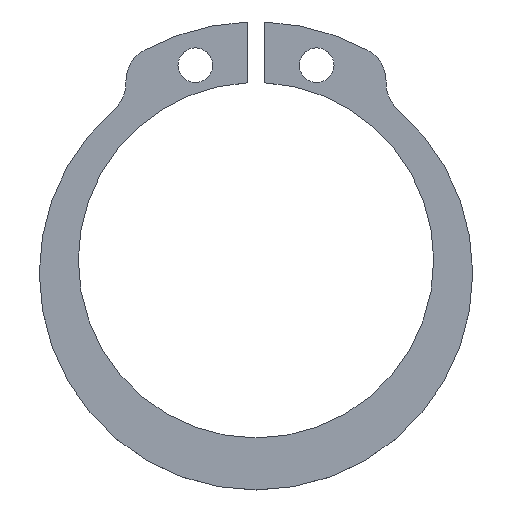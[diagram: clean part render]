
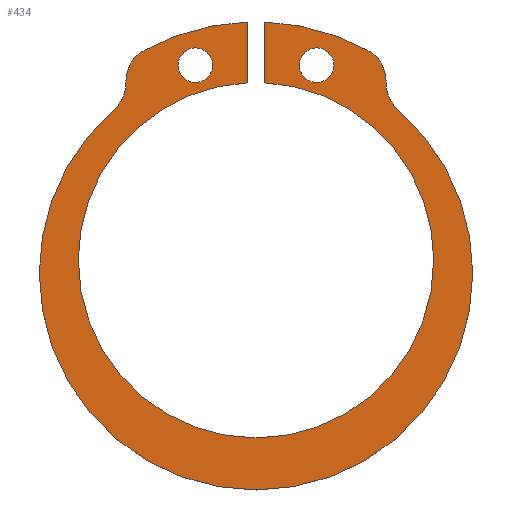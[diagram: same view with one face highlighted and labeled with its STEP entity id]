
A CAD part, top view. The second image highlights one B-rep face of the part: STEP entity #434.
In plain terms, the highlighted planar face has unit normal (0, 0, 1).
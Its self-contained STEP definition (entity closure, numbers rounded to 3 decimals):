
#70=CARTESIAN_POINT('Vertex',(-6.457,11.856,0.6)) ;
#73=CARTESIAN_POINT('Axis2P3D Location',(0.,0.,0.6)) ;
#77=CARTESIAN_POINT('Vertex',(-0.5,13.491,0.6)) ;
#264=CARTESIAN_POINT('Vertex',(-7.5,10.1,0.6)) ;
#267=CARTESIAN_POINT('Axis2P3D Location',(-5.5,10.1,0.6)) ;
#279=CARTESIAN_POINT('Axis2P3D Location',(-9.5,9.954,0.6)) ;
#284=CARTESIAN_POINT('Axis2P3D Location',(-9.5,9.954,0.6)) ;
#288=CARTESIAN_POINT('Vertex',(-8.19,8.443,0.6)) ;
#290=CARTESIAN_POINT('Vertex',(-7.5,9.954,0.6)) ;
#293=CARTESIAN_POINT('Axis2P3D Location',(0.,-1.,0.6)) ;
#297=CARTESIAN_POINT('Vertex',(-12.5,-1.,0.6)) ;
#300=CARTESIAN_POINT('Axis2P3D Location',(0.,-1.,0.6)) ;
#304=CARTESIAN_POINT('Vertex',(12.5,-1.,0.6)) ;
#307=CARTESIAN_POINT('Axis2P3D Location',(0.,-1.,0.6)) ;
#311=CARTESIAN_POINT('Vertex',(8.19,8.443,0.6)) ;
#314=CARTESIAN_POINT('Axis2P3D Location',(9.5,9.954,0.6)) ;
#318=CARTESIAN_POINT('Vertex',(7.5,9.954,0.6)) ;
#321=CARTESIAN_POINT('Line Origine',(7.5,10.027,0.6)) ;
#325=CARTESIAN_POINT('Vertex',(7.5,10.1,0.6)) ;
#328=CARTESIAN_POINT('Axis2P3D Location',(5.5,10.1,0.6)) ;
#332=CARTESIAN_POINT('Vertex',(6.457,11.856,0.6)) ;
#335=CARTESIAN_POINT('Axis2P3D Location',(0.,0.,0.6)) ;
#339=CARTESIAN_POINT('Vertex',(0.5,13.491,0.6)) ;
#342=CARTESIAN_POINT('Line Origine',(0.5,11.739,0.6)) ;
#346=CARTESIAN_POINT('Vertex',(0.5,9.988,0.6)) ;
#349=CARTESIAN_POINT('Axis2P3D Location',(0.,-0.25,0.6)) ;
#353=CARTESIAN_POINT('Vertex',(10.25,-0.25,0.6)) ;
#356=CARTESIAN_POINT('Axis2P3D Location',(0.,-0.25,0.6)) ;
#360=CARTESIAN_POINT('Vertex',(-10.25,-0.25,0.6)) ;
#363=CARTESIAN_POINT('Axis2P3D Location',(0.,-0.25,0.6)) ;
#367=CARTESIAN_POINT('Vertex',(-0.5,9.988,0.6)) ;
#370=CARTESIAN_POINT('Line Origine',(-0.5,11.739,0.6)) ;
#375=CARTESIAN_POINT('Line Origine',(-7.5,10.027,0.6)) ;
#398=CARTESIAN_POINT('Axis2P3D Location',(3.5,11.,0.6)) ;
#402=CARTESIAN_POINT('Vertex',(2.5,11.,0.6)) ;
#404=CARTESIAN_POINT('Vertex',(4.5,11.,0.6)) ;
#407=CARTESIAN_POINT('Axis2P3D Location',(3.5,11.,0.6)) ;
#416=CARTESIAN_POINT('Axis2P3D Location',(-3.5,11.,0.6)) ;
#420=CARTESIAN_POINT('Vertex',(-4.5,11.,0.6)) ;
#422=CARTESIAN_POINT('Vertex',(-2.5,11.,0.6)) ;
#425=CARTESIAN_POINT('Axis2P3D Location',(-3.5,11.,0.6)) ;
#74=DIRECTION('Axis2P3D Direction',(0.,0.,1.)) ;
#268=DIRECTION('Axis2P3D Direction',(0.,0.,1.)) ;
#280=DIRECTION('Axis2P3D Direction',(0.,0.,1.)) ;
#281=DIRECTION('Axis2P3D XDirection',(1.,0.,-0.)) ;
#285=DIRECTION('Axis2P3D Direction',(0.,0.,1.)) ;
#294=DIRECTION('Axis2P3D Direction',(0.,0.,1.)) ;
#301=DIRECTION('Axis2P3D Direction',(0.,0.,1.)) ;
#308=DIRECTION('Axis2P3D Direction',(0.,0.,1.)) ;
#315=DIRECTION('Axis2P3D Direction',(0.,0.,1.)) ;
#322=DIRECTION('Vector Direction',(0.,1.,0.)) ;
#329=DIRECTION('Axis2P3D Direction',(0.,0.,1.)) ;
#336=DIRECTION('Axis2P3D Direction',(0.,0.,1.)) ;
#343=DIRECTION('Vector Direction',(0.,-1.,0.)) ;
#350=DIRECTION('Axis2P3D Direction',(0.,0.,1.)) ;
#357=DIRECTION('Axis2P3D Direction',(0.,0.,1.)) ;
#364=DIRECTION('Axis2P3D Direction',(0.,0.,1.)) ;
#371=DIRECTION('Vector Direction',(0.,1.,0.)) ;
#376=DIRECTION('Vector Direction',(0.,-1.,0.)) ;
#399=DIRECTION('Axis2P3D Direction',(0.,0.,1.)) ;
#408=DIRECTION('Axis2P3D Direction',(0.,0.,1.)) ;
#417=DIRECTION('Axis2P3D Direction',(0.,0.,1.)) ;
#426=DIRECTION('Axis2P3D Direction',(0.,0.,1.)) ;
#75=AXIS2_PLACEMENT_3D('Circle Axis2P3D',#73,#74,$) ;
#269=AXIS2_PLACEMENT_3D('Circle Axis2P3D',#267,#268,$) ;
#282=AXIS2_PLACEMENT_3D('Plane Axis2P3D',#279,#280,#281) ;
#286=AXIS2_PLACEMENT_3D('Circle Axis2P3D',#284,#285,$) ;
#295=AXIS2_PLACEMENT_3D('Circle Axis2P3D',#293,#294,$) ;
#302=AXIS2_PLACEMENT_3D('Circle Axis2P3D',#300,#301,$) ;
#309=AXIS2_PLACEMENT_3D('Circle Axis2P3D',#307,#308,$) ;
#316=AXIS2_PLACEMENT_3D('Circle Axis2P3D',#314,#315,$) ;
#330=AXIS2_PLACEMENT_3D('Circle Axis2P3D',#328,#329,$) ;
#337=AXIS2_PLACEMENT_3D('Circle Axis2P3D',#335,#336,$) ;
#351=AXIS2_PLACEMENT_3D('Circle Axis2P3D',#349,#350,$) ;
#358=AXIS2_PLACEMENT_3D('Circle Axis2P3D',#356,#357,$) ;
#365=AXIS2_PLACEMENT_3D('Circle Axis2P3D',#363,#364,$) ;
#400=AXIS2_PLACEMENT_3D('Circle Axis2P3D',#398,#399,$) ;
#409=AXIS2_PLACEMENT_3D('Circle Axis2P3D',#407,#408,$) ;
#418=AXIS2_PLACEMENT_3D('Circle Axis2P3D',#416,#417,$) ;
#427=AXIS2_PLACEMENT_3D('Circle Axis2P3D',#425,#426,$) ;
#381=ORIENTED_EDGE('',*,*,#292,.F.) ;
#382=ORIENTED_EDGE('',*,*,#299,.T.) ;
#383=ORIENTED_EDGE('',*,*,#306,.T.) ;
#384=ORIENTED_EDGE('',*,*,#313,.T.) ;
#385=ORIENTED_EDGE('',*,*,#320,.F.) ;
#386=ORIENTED_EDGE('',*,*,#327,.T.) ;
#387=ORIENTED_EDGE('',*,*,#334,.T.) ;
#388=ORIENTED_EDGE('',*,*,#341,.T.) ;
#389=ORIENTED_EDGE('',*,*,#348,.T.) ;
#390=ORIENTED_EDGE('',*,*,#355,.F.) ;
#391=ORIENTED_EDGE('',*,*,#362,.F.) ;
#392=ORIENTED_EDGE('',*,*,#369,.F.) ;
#393=ORIENTED_EDGE('',*,*,#374,.T.) ;
#394=ORIENTED_EDGE('',*,*,#79,.T.) ;
#395=ORIENTED_EDGE('',*,*,#271,.T.) ;
#396=ORIENTED_EDGE('',*,*,#379,.T.) ;
#413=ORIENTED_EDGE('',*,*,#406,.F.) ;
#414=ORIENTED_EDGE('',*,*,#411,.F.) ;
#431=ORIENTED_EDGE('',*,*,#424,.F.) ;
#432=ORIENTED_EDGE('',*,*,#429,.F.) ;
#415=FACE_BOUND('',#412,.T.) ;
#433=FACE_BOUND('',#430,.T.) ;
#323=VECTOR('Line Direction',#322,1.) ;
#344=VECTOR('Line Direction',#343,1.) ;
#372=VECTOR('Line Direction',#371,1.) ;
#377=VECTOR('Line Direction',#376,1.) ;
#434=ADVANCED_FACE('553S-R22',(#397,#415,#433),#283,.T.) ;
#76=CIRCLE('generated circle',#75,13.5) ;
#270=CIRCLE('generated circle',#269,2.) ;
#287=CIRCLE('generated circle',#286,2.) ;
#296=CIRCLE('generated circle',#295,12.5) ;
#303=CIRCLE('generated circle',#302,12.5) ;
#310=CIRCLE('generated circle',#309,12.5) ;
#317=CIRCLE('generated circle',#316,2.) ;
#331=CIRCLE('generated circle',#330,2.) ;
#338=CIRCLE('generated circle',#337,13.5) ;
#352=CIRCLE('generated circle',#351,10.25) ;
#359=CIRCLE('generated circle',#358,10.25) ;
#366=CIRCLE('generated circle',#365,10.25) ;
#401=CIRCLE('generated circle',#400,1.) ;
#410=CIRCLE('generated circle',#409,1.) ;
#419=CIRCLE('generated circle',#418,1.) ;
#428=CIRCLE('generated circle',#427,1.) ;
#79=EDGE_CURVE('',#78,#71,#76,.T.) ;
#271=EDGE_CURVE('',#71,#265,#270,.T.) ;
#292=EDGE_CURVE('',#289,#291,#287,.T.) ;
#299=EDGE_CURVE('',#289,#298,#296,.T.) ;
#306=EDGE_CURVE('',#298,#305,#303,.T.) ;
#313=EDGE_CURVE('',#305,#312,#310,.T.) ;
#320=EDGE_CURVE('',#319,#312,#317,.T.) ;
#327=EDGE_CURVE('',#319,#326,#324,.T.) ;
#334=EDGE_CURVE('',#326,#333,#331,.T.) ;
#341=EDGE_CURVE('',#333,#340,#338,.T.) ;
#348=EDGE_CURVE('',#340,#347,#345,.T.) ;
#355=EDGE_CURVE('',#354,#347,#352,.T.) ;
#362=EDGE_CURVE('',#361,#354,#359,.T.) ;
#369=EDGE_CURVE('',#368,#361,#366,.T.) ;
#374=EDGE_CURVE('',#368,#78,#373,.T.) ;
#379=EDGE_CURVE('',#265,#291,#378,.T.) ;
#406=EDGE_CURVE('',#403,#405,#401,.T.) ;
#411=EDGE_CURVE('',#405,#403,#410,.T.) ;
#424=EDGE_CURVE('',#421,#423,#419,.T.) ;
#429=EDGE_CURVE('',#423,#421,#428,.T.) ;
#380=EDGE_LOOP('',(#381,#382,#383,#384,#385,#386,#387,#388,#389,#390,#391,#392,#393,#394,#395,#396)) ;
#412=EDGE_LOOP('',(#413,#414)) ;
#430=EDGE_LOOP('',(#431,#432)) ;
#397=FACE_OUTER_BOUND('',#380,.T.) ;
#324=LINE('Line',#321,#323) ;
#345=LINE('Line',#342,#344) ;
#373=LINE('Line',#370,#372) ;
#378=LINE('Line',#375,#377) ;
#283=PLANE('Plane',#282) ;
#71=VERTEX_POINT('',#70) ;
#78=VERTEX_POINT('',#77) ;
#265=VERTEX_POINT('',#264) ;
#289=VERTEX_POINT('',#288) ;
#291=VERTEX_POINT('',#290) ;
#298=VERTEX_POINT('',#297) ;
#305=VERTEX_POINT('',#304) ;
#312=VERTEX_POINT('',#311) ;
#319=VERTEX_POINT('',#318) ;
#326=VERTEX_POINT('',#325) ;
#333=VERTEX_POINT('',#332) ;
#340=VERTEX_POINT('',#339) ;
#347=VERTEX_POINT('',#346) ;
#354=VERTEX_POINT('',#353) ;
#361=VERTEX_POINT('',#360) ;
#368=VERTEX_POINT('',#367) ;
#403=VERTEX_POINT('',#402) ;
#405=VERTEX_POINT('',#404) ;
#421=VERTEX_POINT('',#420) ;
#423=VERTEX_POINT('',#422) ;
